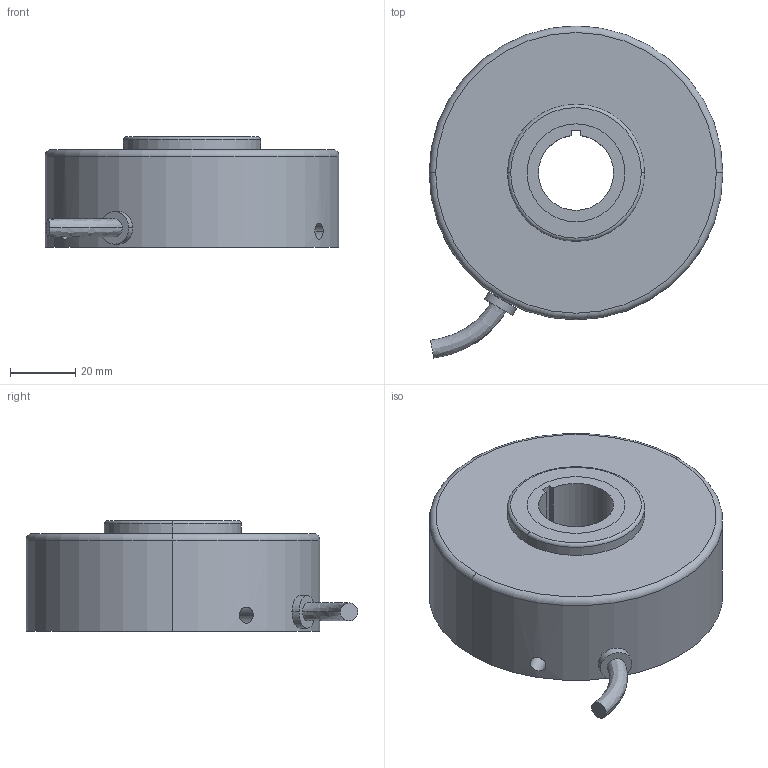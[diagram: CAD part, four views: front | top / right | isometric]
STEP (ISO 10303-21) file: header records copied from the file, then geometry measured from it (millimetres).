
FILE_DESCRIPTION (( 'STEP AP214' ), '1' );
FILE_NAME ('S_Assem1.STEP', '2024-06-18T01:28:36', ( '' ), ( '' ), 'SwSTEP 2.0', 'SolidWorks 2023', '' );
FILE_SCHEMA (( 'AUTOMOTIVE_DESIGN' ));
Length unit declared in the file: millimetre
Products named in the file (3): S_Part2; S_Part1; S_Assem1
Assembly tree (2 placements, depth 2):
  S_Assem1
    S_Part1
    S_Part2
Bounding box: 90 x 101.68 x 34 mm (x, y, z)
Volume: 151184.9 mm3; surface area: 30188.5 mm2
Topology: 3 solids, 3 shells, 39 faces, 86 edges, 56 vertices
Faces by surface type: cylinder 21, plane 12, torus 4, bspline 2
Entity records: 1635 total; most frequent: CARTESIAN_POINT 650, DIRECTION 198, ORIENTED_EDGE 172, EDGE_CURVE 86, AXIS2_PLACEMENT_3D 84, VERTEX_POINT 56, EDGE_LOOP 52, CIRCLE 42
